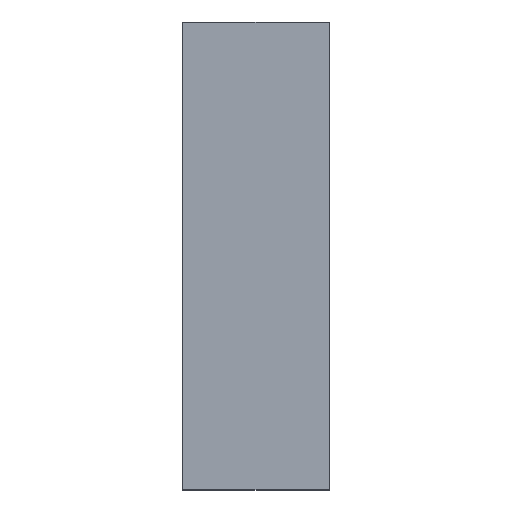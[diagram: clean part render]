
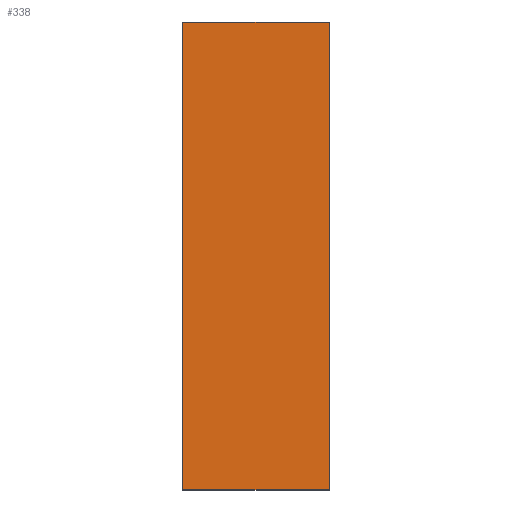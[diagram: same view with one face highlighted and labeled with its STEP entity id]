
A CAD part, top view. The second image highlights one B-rep face of the part: STEP entity #338.
In plain terms, the highlighted planar face has unit normal (0, 0, 1).
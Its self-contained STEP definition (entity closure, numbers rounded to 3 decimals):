
#24 = VERTEX_POINT('',#25);
#25 = CARTESIAN_POINT('',(-125.,-400.,30.));
#32 = PLANE('',#33);
#33 = AXIS2_PLACEMENT_3D('',#34,#35,#36);
#34 = CARTESIAN_POINT('',(-125.,-400.,0.));
#35 = DIRECTION('',(0.,1.,0.));
#36 = DIRECTION('',(1.,0.,0.));
#44 = PLANE('',#45);
#45 = AXIS2_PLACEMENT_3D('',#46,#47,#48);
#46 = CARTESIAN_POINT('',(-125.,400.,0.));
#47 = DIRECTION('',(1.,0.,-0.));
#48 = DIRECTION('',(0.,-1.,0.));
#56 = EDGE_CURVE('',#24,#57,#59,.T.);
#57 = VERTEX_POINT('',#58);
#58 = CARTESIAN_POINT('',(125.,-400.,30.));
#59 = SURFACE_CURVE('',#60,(#64,#71),.PCURVE_S1.);
#60 = LINE('',#61,#62);
#61 = CARTESIAN_POINT('',(-125.,-400.,30.));
#62 = VECTOR('',#63,1.);
#63 = DIRECTION('',(1.,0.,0.));
#64 = PCURVE('',#32,#65);
#65 = DEFINITIONAL_REPRESENTATION('',(#66),#70);
#66 = LINE('',#67,#68);
#67 = CARTESIAN_POINT('',(0.,-30.));
#68 = VECTOR('',#69,1.);
#69 = DIRECTION('',(1.,0.));
#70 = ( GEOMETRIC_REPRESENTATION_CONTEXT(2) 
PARAMETRIC_REPRESENTATION_CONTEXT() REPRESENTATION_CONTEXT('2D SPACE',''
  ) );
#71 = PCURVE('',#72,#77);
#72 = PLANE('',#73);
#73 = AXIS2_PLACEMENT_3D('',#74,#75,#76);
#74 = CARTESIAN_POINT('',(0.,0.,30.));
#75 = DIRECTION('',(0.,0.,1.));
#76 = DIRECTION('',(1.,0.,-0.));
#77 = DEFINITIONAL_REPRESENTATION('',(#78),#82);
#78 = LINE('',#79,#80);
#79 = CARTESIAN_POINT('',(-125.,-400.));
#80 = VECTOR('',#81,1.);
#81 = DIRECTION('',(1.,0.));
#82 = ( GEOMETRIC_REPRESENTATION_CONTEXT(2) 
PARAMETRIC_REPRESENTATION_CONTEXT() REPRESENTATION_CONTEXT('2D SPACE',''
  ) );
#100 = PLANE('',#101);
#101 = AXIS2_PLACEMENT_3D('',#102,#103,#104);
#102 = CARTESIAN_POINT('',(125.,-400.,0.));
#103 = DIRECTION('',(-1.,0.,0.));
#104 = DIRECTION('',(0.,1.,0.));
#142 = EDGE_CURVE('',#57,#143,#145,.T.);
#143 = VERTEX_POINT('',#144);
#144 = CARTESIAN_POINT('',(125.,400.,30.));
#145 = SURFACE_CURVE('',#146,(#150,#157),.PCURVE_S1.);
#146 = LINE('',#147,#148);
#147 = CARTESIAN_POINT('',(125.,-400.,30.));
#148 = VECTOR('',#149,1.);
#149 = DIRECTION('',(0.,1.,0.));
#150 = PCURVE('',#100,#151);
#151 = DEFINITIONAL_REPRESENTATION('',(#152),#156);
#152 = LINE('',#153,#154);
#153 = CARTESIAN_POINT('',(0.,-30.));
#154 = VECTOR('',#155,1.);
#155 = DIRECTION('',(1.,0.));
#156 = ( GEOMETRIC_REPRESENTATION_CONTEXT(2) 
PARAMETRIC_REPRESENTATION_CONTEXT() REPRESENTATION_CONTEXT('2D SPACE',''
  ) );
#157 = PCURVE('',#72,#158);
#158 = DEFINITIONAL_REPRESENTATION('',(#159),#163);
#159 = LINE('',#160,#161);
#160 = CARTESIAN_POINT('',(125.,-400.));
#161 = VECTOR('',#162,1.);
#162 = DIRECTION('',(0.,1.));
#163 = ( GEOMETRIC_REPRESENTATION_CONTEXT(2) 
PARAMETRIC_REPRESENTATION_CONTEXT() REPRESENTATION_CONTEXT('2D SPACE',''
  ) );
#181 = PLANE('',#182);
#182 = AXIS2_PLACEMENT_3D('',#183,#184,#185);
#183 = CARTESIAN_POINT('',(125.,400.,0.));
#184 = DIRECTION('',(0.,-1.,0.));
#185 = DIRECTION('',(-1.,0.,0.));
#218 = EDGE_CURVE('',#143,#219,#221,.T.);
#219 = VERTEX_POINT('',#220);
#220 = CARTESIAN_POINT('',(-125.,400.,30.));
#221 = SURFACE_CURVE('',#222,(#226,#233),.PCURVE_S1.);
#222 = LINE('',#223,#224);
#223 = CARTESIAN_POINT('',(125.,400.,30.));
#224 = VECTOR('',#225,1.);
#225 = DIRECTION('',(-1.,0.,0.));
#226 = PCURVE('',#181,#227);
#227 = DEFINITIONAL_REPRESENTATION('',(#228),#232);
#228 = LINE('',#229,#230);
#229 = CARTESIAN_POINT('',(0.,-30.));
#230 = VECTOR('',#231,1.);
#231 = DIRECTION('',(1.,0.));
#232 = ( GEOMETRIC_REPRESENTATION_CONTEXT(2) 
PARAMETRIC_REPRESENTATION_CONTEXT() REPRESENTATION_CONTEXT('2D SPACE',''
  ) );
#233 = PCURVE('',#72,#234);
#234 = DEFINITIONAL_REPRESENTATION('',(#235),#239);
#235 = LINE('',#236,#237);
#236 = CARTESIAN_POINT('',(125.,400.));
#237 = VECTOR('',#238,1.);
#238 = DIRECTION('',(-1.,0.));
#239 = ( GEOMETRIC_REPRESENTATION_CONTEXT(2) 
PARAMETRIC_REPRESENTATION_CONTEXT() REPRESENTATION_CONTEXT('2D SPACE',''
  ) );
#289 = EDGE_CURVE('',#219,#24,#290,.T.);
#290 = SURFACE_CURVE('',#291,(#295,#302),.PCURVE_S1.);
#291 = LINE('',#292,#293);
#292 = CARTESIAN_POINT('',(-125.,400.,30.));
#293 = VECTOR('',#294,1.);
#294 = DIRECTION('',(0.,-1.,0.));
#295 = PCURVE('',#44,#296);
#296 = DEFINITIONAL_REPRESENTATION('',(#297),#301);
#297 = LINE('',#298,#299);
#298 = CARTESIAN_POINT('',(0.,-30.));
#299 = VECTOR('',#300,1.);
#300 = DIRECTION('',(1.,0.));
#301 = ( GEOMETRIC_REPRESENTATION_CONTEXT(2) 
PARAMETRIC_REPRESENTATION_CONTEXT() REPRESENTATION_CONTEXT('2D SPACE',''
  ) );
#302 = PCURVE('',#72,#303);
#303 = DEFINITIONAL_REPRESENTATION('',(#304),#308);
#304 = LINE('',#305,#306);
#305 = CARTESIAN_POINT('',(-125.,400.));
#306 = VECTOR('',#307,1.);
#307 = DIRECTION('',(0.,-1.));
#308 = ( GEOMETRIC_REPRESENTATION_CONTEXT(2) 
PARAMETRIC_REPRESENTATION_CONTEXT() REPRESENTATION_CONTEXT('2D SPACE',''
  ) );
#338 = ADVANCED_FACE('',(#339),#72,.T.);
#339 = FACE_BOUND('',#340,.T.);
#340 = EDGE_LOOP('',(#341,#342,#343,#344));
#341 = ORIENTED_EDGE('',*,*,#56,.T.);
#342 = ORIENTED_EDGE('',*,*,#142,.T.);
#343 = ORIENTED_EDGE('',*,*,#218,.T.);
#344 = ORIENTED_EDGE('',*,*,#289,.T.);
